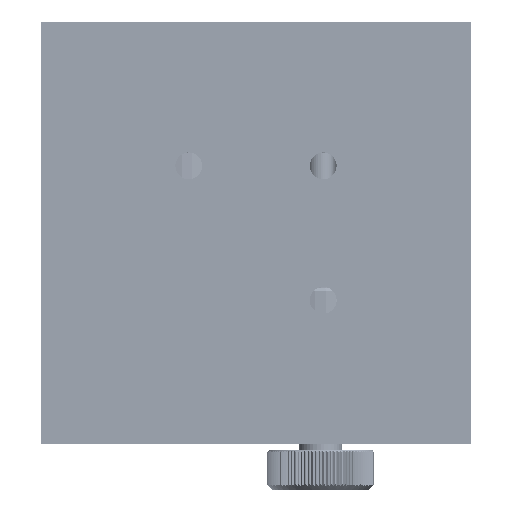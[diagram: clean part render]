
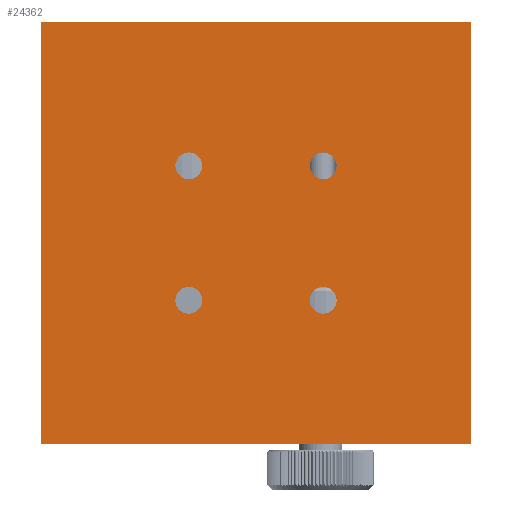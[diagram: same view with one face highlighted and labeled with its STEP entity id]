
A CAD part, top view. The second image highlights one B-rep face of the part: STEP entity #24362.
In plain terms, the highlighted planar face has unit normal (0, 0, 1) as drawn and (0, 0, -1) by its records, which use the part's own axes.
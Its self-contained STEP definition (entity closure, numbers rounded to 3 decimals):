
#19709=DIRECTION('',(0.,1.,0.));
#19710=VECTOR('',#19709,78.5);
#19711=CARTESIAN_POINT('',(-40.,-39.25,-18.25));
#19712=LINE('',#19711,#19710);
#19988=DIRECTION('',(-1.,0.,0.));
#19989=VECTOR('',#19988,80.);
#19990=CARTESIAN_POINT('',(40.,-39.25,-18.25));
#19991=LINE('',#19990,#19989);
#19992=DIRECTION('',(0.,1.,0.));
#19993=VECTOR('',#19992,78.5);
#19994=CARTESIAN_POINT('',(40.,-39.25,-18.25));
#19995=LINE('',#19994,#19993);
#19996=DIRECTION('',(-1.,0.,0.));
#19997=VECTOR('',#19996,80.);
#19998=CARTESIAN_POINT('',(40.,39.25,-18.25));
#19999=LINE('',#19998,#19997);
#20000=CARTESIAN_POINT('',(12.5,-12.5,-18.25));
#20001=DIRECTION('',(0.,0.,-1.));
#20002=DIRECTION('',(1.,0.,0.));
#20003=AXIS2_PLACEMENT_3D('',#20000,#20001,#20002);
#20005=CARTESIAN_POINT('',(12.5,-12.5,-18.25));
#20006=DIRECTION('',(0.,0.,-1.));
#20007=DIRECTION('',(-1.,0.,0.));
#20008=AXIS2_PLACEMENT_3D('',#20005,#20006,#20007);
#20010=CARTESIAN_POINT('',(-12.5,-12.5,-18.25));
#20011=DIRECTION('',(0.,0.,-1.));
#20012=DIRECTION('',(1.,0.,0.));
#20013=AXIS2_PLACEMENT_3D('',#20010,#20011,#20012);
#20015=CARTESIAN_POINT('',(-12.5,-12.5,-18.25));
#20016=DIRECTION('',(0.,0.,-1.));
#20017=DIRECTION('',(-1.,0.,0.));
#20018=AXIS2_PLACEMENT_3D('',#20015,#20016,#20017);
#20020=CARTESIAN_POINT('',(-12.5,12.5,-18.25));
#20021=DIRECTION('',(0.,0.,-1.));
#20022=DIRECTION('',(1.,0.,0.));
#20023=AXIS2_PLACEMENT_3D('',#20020,#20021,#20022);
#20025=CARTESIAN_POINT('',(-12.5,12.5,-18.25));
#20026=DIRECTION('',(0.,0.,-1.));
#20027=DIRECTION('',(-1.,0.,0.));
#20028=AXIS2_PLACEMENT_3D('',#20025,#20026,#20027);
#20030=CARTESIAN_POINT('',(12.5,12.5,-18.25));
#20031=DIRECTION('',(0.,0.,-1.));
#20032=DIRECTION('',(1.,0.,0.));
#20033=AXIS2_PLACEMENT_3D('',#20030,#20031,#20032);
#20035=CARTESIAN_POINT('',(12.5,12.5,-18.25));
#20036=DIRECTION('',(0.,0.,-1.));
#20037=DIRECTION('',(-1.,0.,0.));
#20038=AXIS2_PLACEMENT_3D('',#20035,#20036,#20037);
#23224=CARTESIAN_POINT('',(15.,-12.5,-18.25));
#23225=CARTESIAN_POINT('',(10.,-12.5,-18.25));
#23226=VERTEX_POINT('',#23224);
#23227=VERTEX_POINT('',#23225);
#23232=CARTESIAN_POINT('',(-10.,-12.5,-18.25));
#23233=CARTESIAN_POINT('',(-15.,-12.5,-18.25));
#23234=VERTEX_POINT('',#23232);
#23235=VERTEX_POINT('',#23233);
#23236=CARTESIAN_POINT('',(-10.,12.5,-18.25));
#23237=CARTESIAN_POINT('',(-15.,12.5,-18.25));
#23238=VERTEX_POINT('',#23236);
#23239=VERTEX_POINT('',#23237);
#23244=CARTESIAN_POINT('',(15.,12.5,-18.25));
#23245=CARTESIAN_POINT('',(10.,12.5,-18.25));
#23246=VERTEX_POINT('',#23244);
#23247=VERTEX_POINT('',#23245);
#23498=CARTESIAN_POINT('',(40.,39.25,-18.25));
#23499=CARTESIAN_POINT('',(-40.,39.25,-18.25));
#23500=VERTEX_POINT('',#23498);
#23501=VERTEX_POINT('',#23499);
#23508=CARTESIAN_POINT('',(40.,-39.25,-18.25));
#23509=CARTESIAN_POINT('',(-40.,-39.25,-18.25));
#23510=VERTEX_POINT('',#23508);
#23511=VERTEX_POINT('',#23509);
#24325=CARTESIAN_POINT('',(40.,-36.75,-18.25));
#24326=DIRECTION('',(0.,0.,-1.));
#24327=DIRECTION('',(-1.,0.,0.));
#24328=AXIS2_PLACEMENT_3D('',#24325,#24326,#24327);
#24329=PLANE('',#24328);
#24331=ORIENTED_EDGE('',*,*,#24330,.F.);
#24333=ORIENTED_EDGE('',*,*,#24332,.T.);
#24335=ORIENTED_EDGE('',*,*,#24334,.T.);
#24336=ORIENTED_EDGE('',*,*,#23921,.F.);
#24337=EDGE_LOOP('',(#24331,#24333,#24335,#24336));
#24338=FACE_OUTER_BOUND('',#24337,.F.);
#24340=ORIENTED_EDGE('',*,*,#24339,.T.);
#24342=ORIENTED_EDGE('',*,*,#24341,.T.);
#24343=EDGE_LOOP('',(#24340,#24342));
#24344=FACE_BOUND('',#24343,.F.);
#24346=ORIENTED_EDGE('',*,*,#24345,.T.);
#24348=ORIENTED_EDGE('',*,*,#24347,.T.);
#24349=EDGE_LOOP('',(#24346,#24348));
#24350=FACE_BOUND('',#24349,.F.);
#24352=ORIENTED_EDGE('',*,*,#24351,.T.);
#24354=ORIENTED_EDGE('',*,*,#24353,.T.);
#24355=EDGE_LOOP('',(#24352,#24354));
#24356=FACE_BOUND('',#24355,.F.);
#24357=ORIENTED_EDGE('',*,*,#24315,.T.);
#24359=ORIENTED_EDGE('',*,*,#24358,.T.);
#24360=EDGE_LOOP('',(#24357,#24359));
#24361=FACE_BOUND('',#24360,.F.);
#24362=ADVANCED_FACE('',(#24338,#24344,#24350,#24356,#24361),#24329,.T.);
#20004=CIRCLE('',#20003,2.5);
#20009=CIRCLE('',#20008,2.5);
#20014=CIRCLE('',#20013,2.5);
#20019=CIRCLE('',#20018,2.5);
#20024=CIRCLE('',#20023,2.5);
#20029=CIRCLE('',#20028,2.5);
#20034=CIRCLE('',#20033,2.5);
#20039=CIRCLE('',#20038,2.5);
#23921=EDGE_CURVE('',#23511,#23501,#19712,.T.);
#24315=EDGE_CURVE('',#23246,#23247,#20034,.T.);
#24330=EDGE_CURVE('',#23510,#23511,#19991,.T.);
#24332=EDGE_CURVE('',#23510,#23500,#19995,.T.);
#24334=EDGE_CURVE('',#23500,#23501,#19999,.T.);
#24339=EDGE_CURVE('',#23226,#23227,#20004,.T.);
#24341=EDGE_CURVE('',#23227,#23226,#20009,.T.);
#24345=EDGE_CURVE('',#23234,#23235,#20014,.T.);
#24347=EDGE_CURVE('',#23235,#23234,#20019,.T.);
#24351=EDGE_CURVE('',#23238,#23239,#20024,.T.);
#24353=EDGE_CURVE('',#23239,#23238,#20029,.T.);
#24358=EDGE_CURVE('',#23247,#23246,#20039,.T.);
